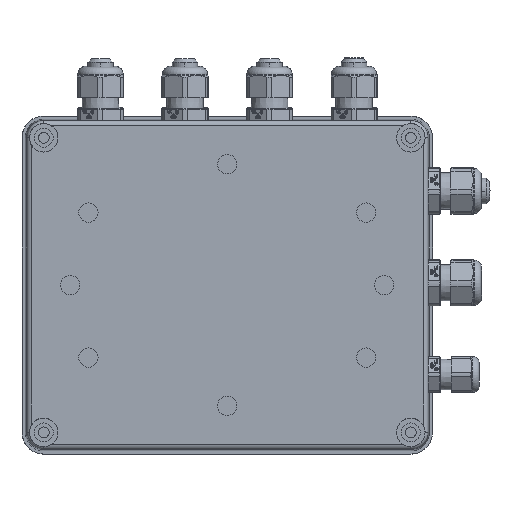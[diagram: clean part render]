
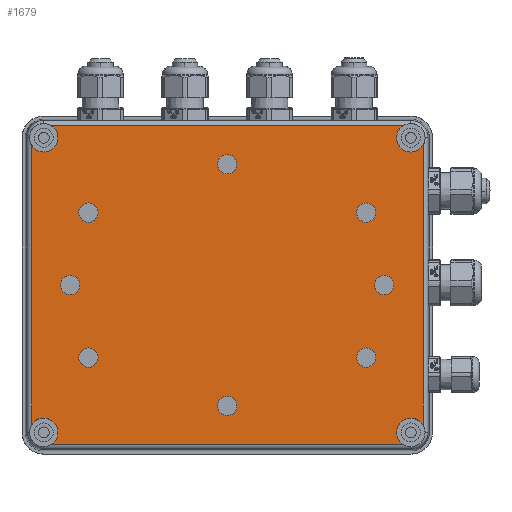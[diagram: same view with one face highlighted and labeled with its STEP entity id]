
A CAD part, front view. The second image highlights one B-rep face of the part: STEP entity #1679.
In plain terms, the highlighted planar face has unit normal (0, -1, 0).
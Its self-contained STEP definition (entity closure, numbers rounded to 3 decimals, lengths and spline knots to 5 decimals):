
#1679=ADVANCED_FACE('256:289',(#3893,#3894,#3895,#3896,#3897,#3898,#3899,#3900,#3901),#3902,.F.);
#3893=FACE_BOUND('',#7272,.T.);
#3894=FACE_BOUND('',#7273,.T.);
#3895=FACE_BOUND('',#7274,.T.);
#3896=FACE_BOUND('',#7275,.T.);
#3897=FACE_BOUND('',#7276,.T.);
#3898=FACE_BOUND('',#7277,.T.);
#3899=FACE_BOUND('',#7278,.T.);
#3900=FACE_BOUND('',#7279,.T.);
#3901=FACE_OUTER_BOUND('',#7280,.T.);
#3902=PLANE('',#7281);
#7272=EDGE_LOOP('',(#13219,#13220));
#7273=EDGE_LOOP('',(#13221,#13222));
#7274=EDGE_LOOP('',(#13223,#13224));
#7275=EDGE_LOOP('',(#13225,#13226));
#7276=EDGE_LOOP('',(#13227,#13228));
#7277=EDGE_LOOP('',(#13229,#13230));
#7278=EDGE_LOOP('',(#13231,#13232));
#7279=EDGE_LOOP('',(#13233,#13234));
#7280=EDGE_LOOP('',(#13235,#13236,#13237,#13238,#13239,#13240,#13241,#13242,#13243,#13244,#13245,#13246));
#7281=AXIS2_PLACEMENT_3D('',#13247,#13248,#13249);
#13219=ORIENTED_EDGE('',*,*,#23932,.T.);
#13220=ORIENTED_EDGE('',*,*,#23465,.T.);
#13221=ORIENTED_EDGE('',*,*,#23931,.T.);
#13222=ORIENTED_EDGE('',*,*,#23469,.T.);
#13223=ORIENTED_EDGE('',*,*,#23930,.T.);
#13224=ORIENTED_EDGE('',*,*,#23473,.T.);
#13225=ORIENTED_EDGE('',*,*,#23929,.T.);
#13226=ORIENTED_EDGE('',*,*,#23477,.T.);
#13227=ORIENTED_EDGE('',*,*,#23928,.T.);
#13228=ORIENTED_EDGE('',*,*,#23481,.T.);
#13229=ORIENTED_EDGE('',*,*,#23927,.T.);
#13230=ORIENTED_EDGE('',*,*,#23485,.T.);
#13231=ORIENTED_EDGE('',*,*,#23926,.T.);
#13232=ORIENTED_EDGE('',*,*,#23489,.T.);
#13233=ORIENTED_EDGE('',*,*,#23925,.T.);
#13234=ORIENTED_EDGE('',*,*,#23493,.T.);
#13235=ORIENTED_EDGE('',*,*,#23498,.F.);
#13236=ORIENTED_EDGE('',*,*,#23923,.T.);
#13237=ORIENTED_EDGE('',*,*,#23921,.F.);
#13238=ORIENTED_EDGE('',*,*,#23504,.F.);
#13239=ORIENTED_EDGE('',*,*,#23920,.T.);
#13240=ORIENTED_EDGE('',*,*,#23508,.F.);
#13241=ORIENTED_EDGE('',*,*,#23917,.F.);
#13242=ORIENTED_EDGE('',*,*,#24153,.T.);
#13243=ORIENTED_EDGE('',*,*,#23460,.F.);
#13244=ORIENTED_EDGE('',*,*,#23934,.F.);
#13245=ORIENTED_EDGE('',*,*,#23937,.T.);
#13246=ORIENTED_EDGE('',*,*,#23924,.F.);
#13247=CARTESIAN_POINT('',(-0.076,-0.075,-0.061));
#13248=DIRECTION('',(0.0,1.0,0.0));
#13249=DIRECTION('',(0.0,0.0,1.0));
#23460=EDGE_CURVE('256:1510',#27875,#27878,#27879,.T.);
#23465=EDGE_CURVE('256:1471',#27888,#27885,#27889,.T.);
#23469=EDGE_CURVE('256:751',#27896,#27893,#27897,.T.);
#23473=EDGE_CURVE('256:1474',#27904,#27901,#27905,.T.);
#23477=EDGE_CURVE('256:1477',#27912,#27909,#27913,.T.);
#23481=EDGE_CURVE('256:1480',#27920,#27917,#27921,.T.);
#23485=EDGE_CURVE('256:1483',#27928,#27925,#27929,.T.);
#23489=EDGE_CURVE('256:1486',#27936,#27933,#27937,.T.);
#23493=EDGE_CURVE('256:1489',#27944,#27941,#27945,.T.);
#23498=EDGE_CURVE('256:1492',#27952,#27954,#27955,.F.);
#23504=EDGE_CURVE('256:1498',#27964,#27966,#27967,.T.);
#23508=EDGE_CURVE('256:1504',#27971,#27974,#27975,.F.);
#23917=EDGE_CURVE('256:1504',#28662,#27971,#28664,.F.);
#23920=EDGE_CURVE('256:1501',#27964,#27974,#28668,.F.);
#23921=EDGE_CURVE('256:1498',#27966,#28430,#28669,.T.);
#23923=EDGE_CURVE('256:1495',#27952,#28430,#28671,.F.);
#23924=EDGE_CURVE('256:1492',#27954,#28448,#28672,.F.);
#23925=EDGE_CURVE('256:1489',#27941,#27944,#28673,.T.);
#23926=EDGE_CURVE('256:1486',#27933,#27936,#28674,.T.);
#23927=EDGE_CURVE('256:1483',#27925,#27928,#28675,.T.);
#23928=EDGE_CURVE('256:1480',#27917,#27920,#28676,.T.);
#23929=EDGE_CURVE('256:1477',#27909,#27912,#28677,.T.);
#23930=EDGE_CURVE('256:1474',#27901,#27904,#28678,.T.);
#23931=EDGE_CURVE('256:751',#27893,#27896,#28679,.T.);
#23932=EDGE_CURVE('256:1471',#27885,#27888,#28680,.T.);
#23934=EDGE_CURVE('256:1510',#28681,#27875,#28683,.T.);
#23937=EDGE_CURVE('256:1513',#28681,#28448,#28688,.F.);
#24153=EDGE_CURVE('256:1507',#28662,#27878,#29013,.F.);
#27875=VERTEX_POINT('',#35006);
#27878=VERTEX_POINT('',#35010);
#27879=CIRCLE('',#35011,0.0059);
#27885=VERTEX_POINT('',#35018);
#27888=VERTEX_POINT('',#35022);
#27889=CIRCLE('',#35023,0.004);
#27893=VERTEX_POINT('',#35028);
#27896=VERTEX_POINT('',#35032);
#27897=CIRCLE('',#35033,0.004);
#27901=VERTEX_POINT('',#35038);
#27904=VERTEX_POINT('',#35042);
#27905=CIRCLE('',#35043,0.004);
#27909=VERTEX_POINT('',#35048);
#27912=VERTEX_POINT('',#35052);
#27913=CIRCLE('',#35053,0.004);
#27917=VERTEX_POINT('',#35058);
#27920=VERTEX_POINT('',#35062);
#27921=CIRCLE('',#35063,0.004);
#27925=VERTEX_POINT('',#35068);
#27928=VERTEX_POINT('',#35072);
#27929=CIRCLE('',#35073,0.004);
#27933=VERTEX_POINT('',#35078);
#27936=VERTEX_POINT('',#35082);
#27937=CIRCLE('',#35083,0.004);
#27941=VERTEX_POINT('',#35088);
#27944=VERTEX_POINT('',#35092);
#27945=CIRCLE('',#35093,0.004);
#27952=VERTEX_POINT('',#35102);
#27954=VERTEX_POINT('',#35104);
#27955=CIRCLE('',#35105,0.0059);
#27964=VERTEX_POINT('',#35116);
#27966=VERTEX_POINT('',#35118);
#27967=CIRCLE('',#35119,0.0059);
#27971=VERTEX_POINT('',#35124);
#27974=VERTEX_POINT('',#35128);
#27975=CIRCLE('',#35129,0.0059);
#28430=VERTEX_POINT('',#35704);
#28448=VERTEX_POINT('',#35723);
#28662=VERTEX_POINT('',#36026);
#28664=CIRCLE('',#36028,0.0059);
#28668=LINE('',#36033,#36034);
#28669=CIRCLE('',#36035,0.0059);
#28671=LINE('',#36038,#36039);
#28672=CIRCLE('',#36040,0.0059);
#28673=CIRCLE('',#36041,0.004);
#28674=CIRCLE('',#36042,0.004);
#28675=CIRCLE('',#36043,0.004);
#28676=CIRCLE('',#36044,0.004);
#28677=CIRCLE('',#36045,0.004);
#28678=CIRCLE('',#36046,0.004);
#28679=CIRCLE('',#36047,0.004);
#28680=CIRCLE('',#36048,0.004);
#28681=VERTEX_POINT('',#36049);
#28683=CIRCLE('',#36051,0.0059);
#28688=LINE('',#36057,#36058);
#29013=LINE('',#36559,#36560);
#35006=CARTESIAN_POINT('',(0.076,-0.075,-0.0551));
#35010=CARTESIAN_POINT('',(0.07297,-0.075,-0.06606));
#35011=AXIS2_PLACEMENT_3D('',#44694,#44695,#44696);
#35018=CARTESIAN_POINT('',(0.0575,-0.075,-0.026));
#35022=CARTESIAN_POINT('',(0.0575,-0.075,-0.034));
#35023=AXIS2_PLACEMENT_3D('',#44705,#44706,#44707);
#35028=CARTESIAN_POINT('',(-0.0575,-0.075,-0.026));
#35032=CARTESIAN_POINT('',(-0.0575,-0.075,-0.034));
#35033=AXIS2_PLACEMENT_3D('',#44713,#44714,#44715);
#35038=CARTESIAN_POINT('',(-0.0575,-0.075,0.034));
#35042=CARTESIAN_POINT('',(-0.0575,-0.075,0.026));
#35043=AXIS2_PLACEMENT_3D('',#44721,#44722,#44723);
#35048=CARTESIAN_POINT('',(0.,-0.075,-0.046));
#35052=CARTESIAN_POINT('',(0.,-0.075,-0.054));
#35053=AXIS2_PLACEMENT_3D('',#44729,#44730,#44731);
#35058=CARTESIAN_POINT('',(0.0,-0.075,0.054));
#35062=CARTESIAN_POINT('',(0.,-0.075,0.046));
#35063=AXIS2_PLACEMENT_3D('',#44737,#44738,#44739);
#35068=CARTESIAN_POINT('',(0.0575,-0.075,0.034));
#35072=CARTESIAN_POINT('',(0.0575,-0.075,0.026));
#35073=AXIS2_PLACEMENT_3D('',#44745,#44746,#44747);
#35078=CARTESIAN_POINT('',(0.065,-0.075,0.004));
#35082=CARTESIAN_POINT('',(0.065,-0.075,-0.004));
#35083=AXIS2_PLACEMENT_3D('',#44753,#44754,#44755);
#35088=CARTESIAN_POINT('',(-0.065,-0.075,0.004));
#35092=CARTESIAN_POINT('',(-0.065,-0.075,-0.004));
#35093=AXIS2_PLACEMENT_3D('',#44761,#44762,#44763);
#35102=CARTESIAN_POINT('',(0.07297,-0.075,0.06606));
#35104=CARTESIAN_POINT('',(0.076,-0.075,0.0551));
#35105=AXIS2_PLACEMENT_3D('',#44772,#44773,#44774);
#35116=CARTESIAN_POINT('',(-0.08106,-0.075,0.05797));
#35118=CARTESIAN_POINT('',(-0.076,-0.075,0.0551));
#35119=AXIS2_PLACEMENT_3D('',#44786,#44787,#44788);
#35124=CARTESIAN_POINT('',(-0.076,-0.075,-0.0551));
#35128=CARTESIAN_POINT('',(-0.08106,-0.075,-0.05797));
#35129=AXIS2_PLACEMENT_3D('',#44794,#44795,#44796);
#35704=CARTESIAN_POINT('',(-0.07297,-0.075,0.06606));
#35723=CARTESIAN_POINT('',(0.08106,-0.075,0.05797));
#36026=CARTESIAN_POINT('',(-0.07297,-0.075,-0.06606));
#36028=AXIS2_PLACEMENT_3D('',#45601,#45602,#45603);
#36033=CARTESIAN_POINT('',(-0.08106,-0.075,-0.061));
#36034=VECTOR('',#45608,1.0);
#36035=AXIS2_PLACEMENT_3D('',#45609,#45610,#45611);
#36038=CARTESIAN_POINT('',(-0.076,-0.075,0.06606));
#36039=VECTOR('',#45613,1.0);
#36040=AXIS2_PLACEMENT_3D('',#45614,#45615,#45616);
#36041=AXIS2_PLACEMENT_3D('',#45617,#45618,#45619);
#36042=AXIS2_PLACEMENT_3D('',#45620,#45621,#45622);
#36043=AXIS2_PLACEMENT_3D('',#45623,#45624,#45625);
#36044=AXIS2_PLACEMENT_3D('',#45626,#45627,#45628);
#36045=AXIS2_PLACEMENT_3D('',#45629,#45630,#45631);
#36046=AXIS2_PLACEMENT_3D('',#45632,#45633,#45634);
#36047=AXIS2_PLACEMENT_3D('',#45635,#45636,#45637);
#36048=AXIS2_PLACEMENT_3D('',#45638,#45639,#45640);
#36049=CARTESIAN_POINT('',(0.08106,-0.075,-0.05797));
#36051=AXIS2_PLACEMENT_3D('',#45644,#45645,#45646);
#36057=CARTESIAN_POINT('',(0.08106,-0.075,0.061));
#36058=VECTOR('',#45651,1.0);
#36559=CARTESIAN_POINT('',(0.076,-0.075,-0.06606));
#36560=VECTOR('',#45945,1.0);
#44694=CARTESIAN_POINT('',(0.076,-0.075,-0.061));
#44695=DIRECTION('',(0.0,-1.0,0.0));
#44696=DIRECTION('',(1.0,0.0,0.0));
#44705=CARTESIAN_POINT('',(0.0575,-0.075,-0.03));
#44706=DIRECTION('',(0.0,1.0,0.0));
#44707=DIRECTION('',(0.0,0.0,1.0));
#44713=CARTESIAN_POINT('',(-0.0575,-0.075,-0.03));
#44714=DIRECTION('',(0.0,1.0,0.0));
#44715=DIRECTION('',(0.0,0.0,1.0));
#44721=CARTESIAN_POINT('',(-0.0575,-0.075,0.03));
#44722=DIRECTION('',(0.0,1.0,0.0));
#44723=DIRECTION('',(0.0,0.0,1.0));
#44729=CARTESIAN_POINT('',(0.,-0.075,-0.05));
#44730=DIRECTION('',(0.0,1.0,0.0));
#44731=DIRECTION('',(0.0,0.0,1.0));
#44737=CARTESIAN_POINT('',(0.0,-0.075,0.05));
#44738=DIRECTION('',(0.0,1.0,0.0));
#44739=DIRECTION('',(0.0,0.0,1.0));
#44745=CARTESIAN_POINT('',(0.0575,-0.075,0.03));
#44746=DIRECTION('',(0.0,1.0,0.0));
#44747=DIRECTION('',(0.0,0.0,1.0));
#44753=CARTESIAN_POINT('',(0.065,-0.075,0.0));
#44754=DIRECTION('',(0.0,1.0,0.0));
#44755=DIRECTION('',(0.0,0.0,1.0));
#44761=CARTESIAN_POINT('',(-0.065,-0.075,0.));
#44762=DIRECTION('',(0.0,1.0,0.0));
#44763=DIRECTION('',(0.0,0.0,1.0));
#44772=CARTESIAN_POINT('',(0.076,-0.075,0.061));
#44773=DIRECTION('',(0.0,1.0,0.0));
#44774=DIRECTION('',(-1.0,0.0,0.0));
#44786=CARTESIAN_POINT('',(-0.076,-0.075,0.061));
#44787=DIRECTION('',(0.0,-1.0,0.0));
#44788=DIRECTION('',(1.0,0.0,0.0));
#44794=CARTESIAN_POINT('',(-0.076,-0.075,-0.061));
#44795=DIRECTION('',(0.0,1.0,0.0));
#44796=DIRECTION('',(-1.0,0.0,0.0));
#45601=CARTESIAN_POINT('',(-0.076,-0.075,-0.061));
#45602=DIRECTION('',(0.0,1.0,0.0));
#45603=DIRECTION('',(-1.0,0.0,0.0));
#45608=DIRECTION('',(0.0,0.0,1.0));
#45609=CARTESIAN_POINT('',(-0.076,-0.075,0.061));
#45610=DIRECTION('',(0.0,-1.0,0.0));
#45611=DIRECTION('',(1.0,0.0,0.0));
#45613=DIRECTION('',(1.0,0.0,0.0));
#45614=CARTESIAN_POINT('',(0.076,-0.075,0.061));
#45615=DIRECTION('',(0.0,1.0,0.0));
#45616=DIRECTION('',(-1.0,0.0,0.0));
#45617=CARTESIAN_POINT('',(-0.065,-0.075,0.));
#45618=DIRECTION('',(0.0,1.0,0.0));
#45619=DIRECTION('',(0.0,0.0,1.0));
#45620=CARTESIAN_POINT('',(0.065,-0.075,0.0));
#45621=DIRECTION('',(0.0,1.0,0.0));
#45622=DIRECTION('',(0.0,0.0,1.0));
#45623=CARTESIAN_POINT('',(0.0575,-0.075,0.03));
#45624=DIRECTION('',(0.0,1.0,0.0));
#45625=DIRECTION('',(0.0,0.0,1.0));
#45626=CARTESIAN_POINT('',(0.0,-0.075,0.05));
#45627=DIRECTION('',(0.0,1.0,0.0));
#45628=DIRECTION('',(0.0,0.0,1.0));
#45629=CARTESIAN_POINT('',(0.,-0.075,-0.05));
#45630=DIRECTION('',(0.0,1.0,0.0));
#45631=DIRECTION('',(0.0,0.0,1.0));
#45632=CARTESIAN_POINT('',(-0.0575,-0.075,0.03));
#45633=DIRECTION('',(0.0,1.0,0.0));
#45634=DIRECTION('',(0.0,0.0,1.0));
#45635=CARTESIAN_POINT('',(-0.0575,-0.075,-0.03));
#45636=DIRECTION('',(0.0,1.0,0.0));
#45637=DIRECTION('',(0.0,0.0,1.0));
#45638=CARTESIAN_POINT('',(0.0575,-0.075,-0.03));
#45639=DIRECTION('',(0.0,1.0,0.0));
#45640=DIRECTION('',(0.0,0.0,1.0));
#45644=CARTESIAN_POINT('',(0.076,-0.075,-0.061));
#45645=DIRECTION('',(0.0,-1.0,0.0));
#45646=DIRECTION('',(1.0,0.0,0.0));
#45651=DIRECTION('',(0.,0.0,-1.0));
#45945=DIRECTION('',(-1.0,0.0,0.));
